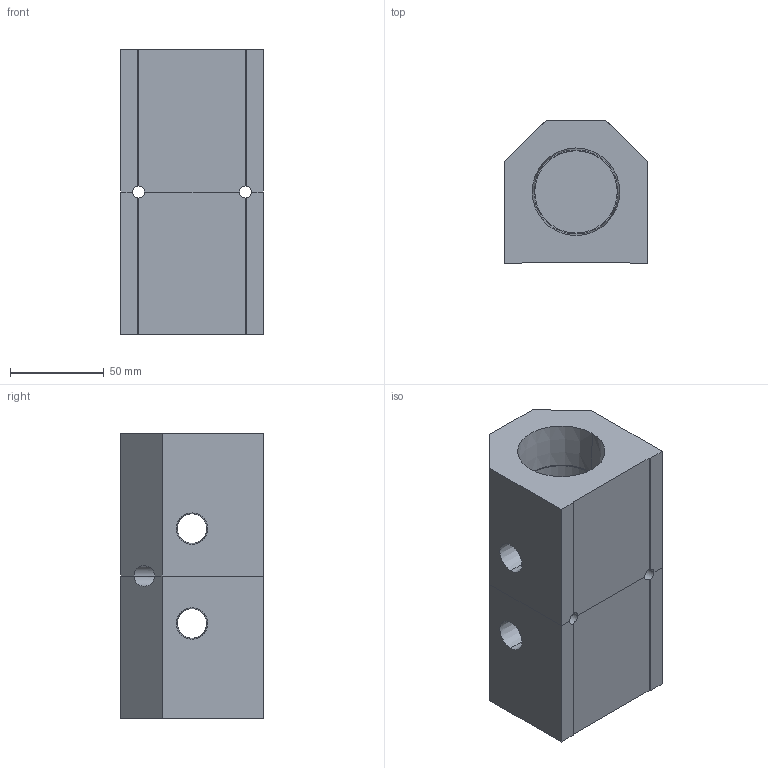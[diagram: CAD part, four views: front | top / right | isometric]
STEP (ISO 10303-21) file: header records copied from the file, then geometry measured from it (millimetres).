
FILE_DESCRIPTION (( 'STEP AP214' ), '1' );
FILE_NAME ('ALM2ACE-N6N24-152RB.step', '2022-02-07T09:15:49', ( '' ), ( '' ), 'SwSTEP 2.0', 'SolidWorks 2020', '' );
FILE_SCHEMA (( 'AUTOMOTIVE_DESIGN' ));
Length unit declared in the file: millimetre
Products named in the file (1): ALM2ACE-N6N24-152RB
Bounding box: 76.2 x 76.2 x 152 mm (x, y, z)
Volume: 542875.7 mm3; surface area: 87926.9 mm2
Topology: 2 solids, 2 shells, 342 faces, 908 edges, 602 vertices
Faces by surface type: plane 248, bspline 62, cylinder 16, cone 16
Entity records: 18216 total; most frequent: CARTESIAN_POINT 6957, ORIENTED_EDGE 1816, DIRECTION 1372, EDGE_CURVE 908, VECTOR 714, LINE 714, VERTEX_POINT 602, EDGE_LOOP 386
